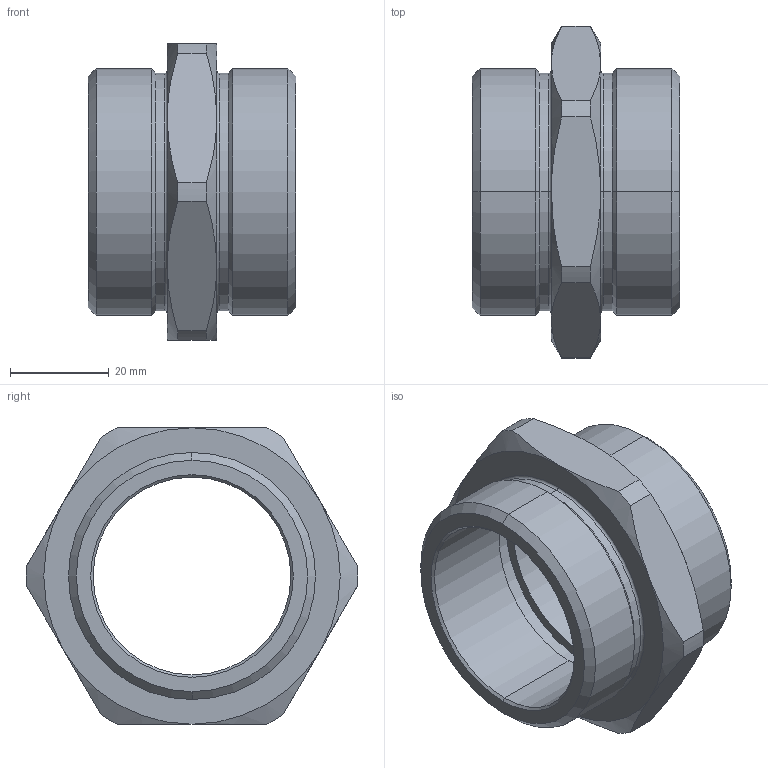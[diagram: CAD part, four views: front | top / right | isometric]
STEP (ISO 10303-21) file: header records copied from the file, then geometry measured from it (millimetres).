
FILE_DESCRIPTION (( 'STEP AP203' ), '1' );
FILE_NAME ('ﾍﾂﾍ5Mﾍ.STEP', '2019-06-05T11:19:53', ( '' ), ( '' ), 'SwSTEP 2.0', 'SolidWorks 2012', '' );
FILE_SCHEMA (( 'CONFIG_CONTROL_DESIGN' ));
Length unit declared in the file: millimetre
Products named in the file (1): ﾍﾂﾍ5Mﾍ
Bounding box: 42 x 67.19 x 60 mm (x, y, z)
Volume: 38419.6 mm3; surface area: 16301.1 mm2
Topology: 1 solids, 1 shells, 60 faces, 130 edges, 76 vertices
Faces by surface type: cone 24, cylinder 20, plane 12, torus 4
Entity records: 1835 total; most frequent: CARTESIAN_POINT 443, DIRECTION 296, ORIENTED_EDGE 260, EDGE_CURVE 130, AXIS2_PLACEMENT_3D 129, VERTEX_POINT 76, CIRCLE 68, EDGE_LOOP 66
